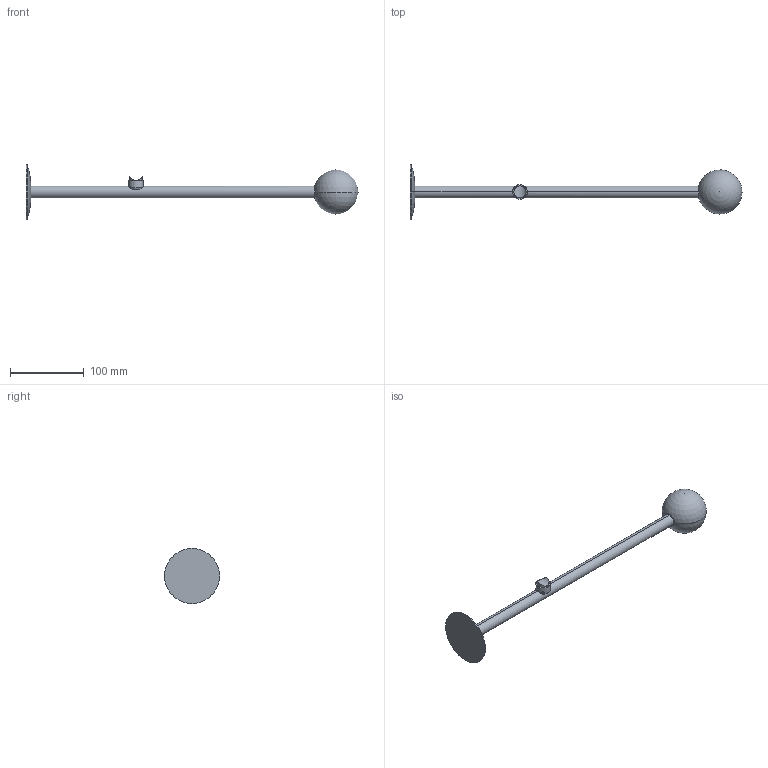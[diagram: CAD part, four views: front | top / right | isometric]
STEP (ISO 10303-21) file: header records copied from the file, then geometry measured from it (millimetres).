
FILE_DESCRIPTION (( 'STEP AP214' ), '1' );
FILE_NAME ('Eclipse 75.STEP', '2021-09-16T01:56:01', ( '' ), ( '' ), 'SwSTEP 2.0', 'SolidWorks 2017', '' );
FILE_SCHEMA (( 'AUTOMOTIVE_DESIGN' ));
Length unit declared in the file: millimetre
Products named in the file (1): Eclipse 75
Bounding box: 451.13 x 75 x 75 mm (x, y, z)
Volume: 78954.5 mm3; surface area: 66579 mm2
Topology: 4 solids, 4 shells, 77 faces, 196 edges, 118 vertices
Faces by surface type: cylinder 29, plane 22, torus 12, cone 10, sphere 4
Entity records: 3382 total; most frequent: CARTESIAN_POINT 766, DIRECTION 422, ORIENTED_EDGE 364, AXIS2_PLACEMENT_3D 186, EDGE_CURVE 182, VERTEX_POINT 112, CIRCLE 108, EDGE_LOOP 86
